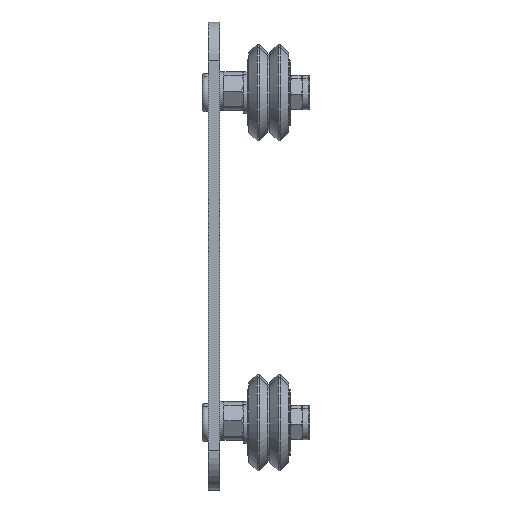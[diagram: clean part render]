
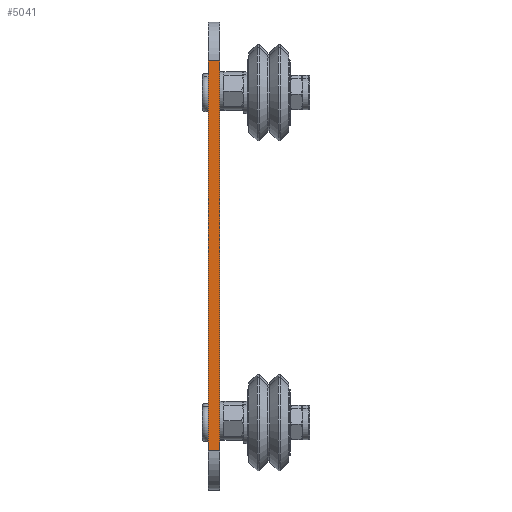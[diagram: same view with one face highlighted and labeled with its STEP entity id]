
A CAD part, left-side view. The second image highlights one B-rep face of the part: STEP entity #5041.
In plain terms, the highlighted planar face has unit normal (-1, 0, 0).
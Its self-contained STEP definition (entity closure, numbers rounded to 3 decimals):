
#689=PLANE('',#5782);
#982=FACE_OUTER_BOUND('',#1393,.T.);
#1393=EDGE_LOOP('',(#4592,#4593,#4594,#4595));
#1626=LINE('',#12696,#1871);
#1627=LINE('',#12702,#1872);
#1632=LINE('',#12716,#1877);
#1638=LINE('',#12728,#1883);
#1871=VECTOR('',#7212,1000.);
#1872=VECTOR('',#7217,1000.);
#1877=VECTOR('',#7230,1000.);
#1883=VECTOR('',#7248,1000.);
#2561=VERTEX_POINT('',#12681);
#2568=VERTEX_POINT('',#12694);
#2569=VERTEX_POINT('',#12698);
#2571=VERTEX_POINT('',#12701);
#3233=EDGE_CURVE('',#2568,#2561,#1626,.T.);
#3235=EDGE_CURVE('',#2571,#2569,#1627,.T.);
#3243=EDGE_CURVE('',#2561,#2569,#1632,.T.);
#3249=EDGE_CURVE('',#2568,#2571,#1638,.T.);
#4592=ORIENTED_EDGE('',*,*,#3235,.T.);
#4593=ORIENTED_EDGE('',*,*,#3243,.F.);
#4594=ORIENTED_EDGE('',*,*,#3233,.F.);
#4595=ORIENTED_EDGE('',*,*,#3249,.T.);
#5041=ADVANCED_FACE('',(#982),#689,.F.);
#5782=AXIS2_PLACEMENT_3D('',#12729,#7249,#7250);
#7212=DIRECTION('',(0.,1.,0.));
#7217=DIRECTION('',(0.,1.,0.));
#7230=DIRECTION('',(0.,0.,1.));
#7248=DIRECTION('',(0.,0.,1.));
#7249=DIRECTION('center_axis',(1.,0.,0.));
#7250=DIRECTION('ref_axis',(0.,-1.,0.));
#12681=CARTESIAN_POINT('',(-50.,51.5,-1.5));
#12694=CARTESIAN_POINT('',(-50.,-48.5,-1.5));
#12696=CARTESIAN_POINT('',(-50.,51.5,-1.5));
#12698=CARTESIAN_POINT('',(-50.,51.5,1.5));
#12701=CARTESIAN_POINT('',(-50.,-48.5,1.5));
#12702=CARTESIAN_POINT('',(-50.,51.5,1.5));
#12716=CARTESIAN_POINT('',(-50.,51.5,-1.5));
#12728=CARTESIAN_POINT('',(-50.,-48.5,-1.5));
#12729=CARTESIAN_POINT('Origin',(-50.,51.5,-1.5));
